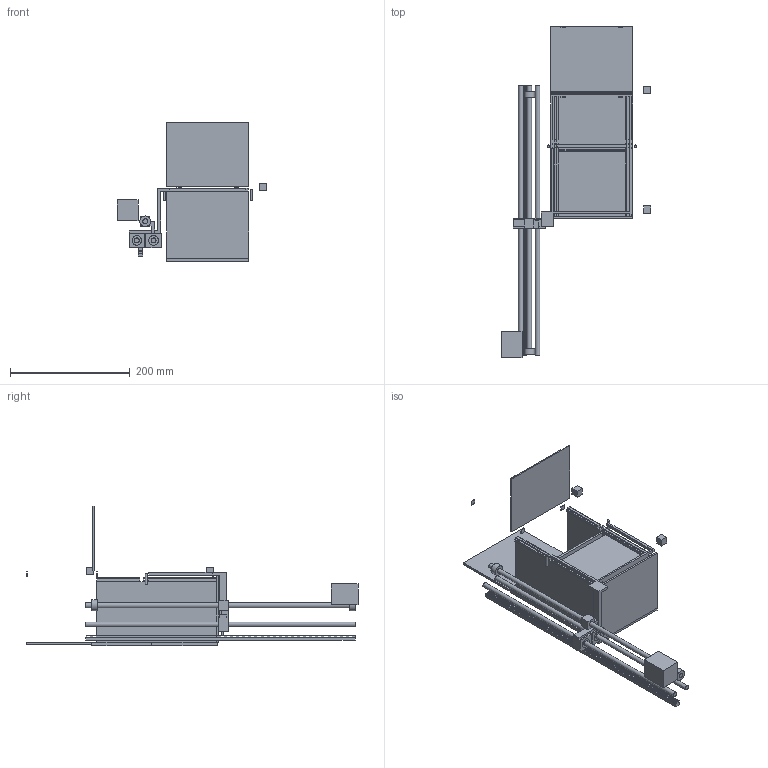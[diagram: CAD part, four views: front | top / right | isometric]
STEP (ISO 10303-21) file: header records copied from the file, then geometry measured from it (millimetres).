
FILE_DESCRIPTION(('FreeCAD Model'),'2;1');
FILE_NAME('Open CASCADE Shape Model','2026-10-19T11:22:39',('FreeCAD'),( 'FreeCAD'),'Open CASCADE STEP processor 7.8','FreeCAD','Unknown');
FILE_SCHEMA(('AUTOMOTIVE_DESIGN { 1 0 10303 214 1 1 1 1 }'));
Length unit declared in the file: millimetre
Products named in the file (1): Open CASCADE STEP translator 7.8 1
Bounding box: 250.5 x 555 x 234 mm (x, y, z)
Volume: 1929230.8 mm3; surface area: 473564.9 mm2
Topology: 30 solids, 30 shells, 1166 faces, 3315 edges, 2210 vertices
Faces by surface type: plane 1150, cylinder 16
Full cylindrical faces by diameter (mm): 4 x2, 8 x3, 8.5 x5, 16 x4, 18 x2
Entity records: 37091 total; most frequent: CARTESIAN_POINT 6692, ORIENTED_EDGE 6630, DIRECTION 5681, EDGE_CURVE 3315, LINE 3283, VECTOR 3283, VERTEX_POINT 2210, AXIS2_PLACEMENT_3D 1199
